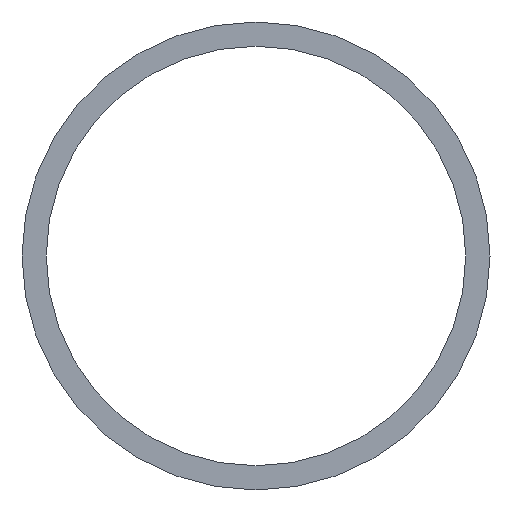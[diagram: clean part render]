
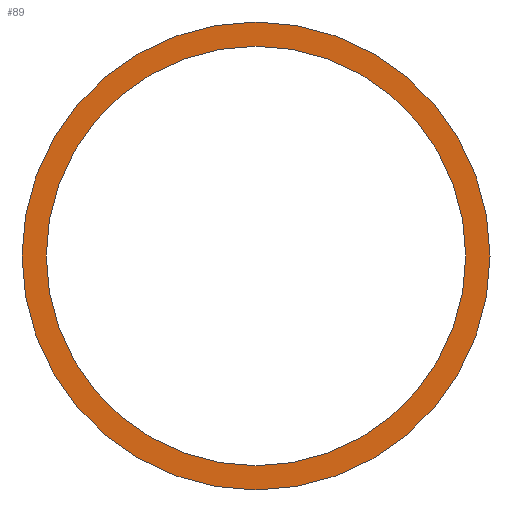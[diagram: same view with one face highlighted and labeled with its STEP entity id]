
A CAD part, front view. The second image highlights one B-rep face of the part: STEP entity #89.
In plain terms, the highlighted planar face has unit normal (0, -1, 0).
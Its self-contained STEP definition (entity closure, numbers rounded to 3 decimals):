
#3 = AXIS2_PLACEMENT_3D ( 'NONE', #88, #38, #135 ) ;
#5 = DIRECTION ( 'NONE',  ( 0., 0., 1. ) ) ;
#6 = DIRECTION ( 'NONE',  ( 0., 1., 0. ) ) ;
#8 = CARTESIAN_POINT ( 'NONE',  ( -92., 82., 6300. ) ) ;
#9 = CARTESIAN_POINT ( 'NONE',  ( -92., 82., 6297.5 ) ) ;
#20 = FACE_BOUND ( 'NONE', #23, .T. ) ;
#23 = EDGE_LOOP ( 'NONE', ( #108, #49 ) ) ;
#26 = DIRECTION ( 'NONE',  ( 0., 1., 0. ) ) ;
#28 = CARTESIAN_POINT ( 'NONE',  ( -92., 82., 6275.85 ) ) ;
#35 = VERTEX_POINT ( 'NONE', #8 ) ;
#38 = DIRECTION ( 'NONE',  ( 0., 1., 0. ) ) ;
#39 = CIRCLE ( 'NONE', #3, 24.15 ) ;
#45 = EDGE_CURVE ( 'NONE', #106, #201, #57, .T. ) ;
#49 = ORIENTED_EDGE ( 'NONE', *, *, #45, .T. ) ;
#57 = CIRCLE ( 'NONE', #99, 21.65 ) ;
#66 = DIRECTION ( 'NONE',  ( 0., 0., 1. ) ) ;
#68 = DIRECTION ( 'NONE',  ( 0., 1., 0. ) ) ;
#74 = ORIENTED_EDGE ( 'NONE', *, *, #188, .F. ) ;
#88 = CARTESIAN_POINT ( 'NONE',  ( -92., 82., 6275.85 ) ) ;
#89 = ADVANCED_FACE ( 'NONE', ( #20, #96 ), #130, .F. ) ;
#96 = FACE_OUTER_BOUND ( 'NONE', #113, .T. ) ;
#99 = AXIS2_PLACEMENT_3D ( 'NONE', #168, #6, #200 ) ;
#106 = VERTEX_POINT ( 'NONE', #211 ) ;
#108 = ORIENTED_EDGE ( 'NONE', *, *, #109, .T. ) ;
#109 = EDGE_CURVE ( 'NONE', #201, #106, #181, .T. ) ;
#110 = CIRCLE ( 'NONE', #214, 24.15 ) ;
#113 = EDGE_LOOP ( 'NONE', ( #74, #132 ) ) ;
#119 = CARTESIAN_POINT ( 'NONE',  ( -92., 82., 6251.7 ) ) ;
#122 = DIRECTION ( 'NONE',  ( 0., 0., 1. ) ) ;
#125 = AXIS2_PLACEMENT_3D ( 'NONE', #28, #68, #122 ) ;
#130 = PLANE ( 'NONE',  #195 ) ;
#132 = ORIENTED_EDGE ( 'NONE', *, *, #169, .F. ) ;
#135 = DIRECTION ( 'NONE',  ( 0., 0., 1. ) ) ;
#147 = DIRECTION ( 'NONE',  ( 0., 1., 0. ) ) ;
#166 = CARTESIAN_POINT ( 'NONE',  ( -82., 82., 6275.85 ) ) ;
#168 = CARTESIAN_POINT ( 'NONE',  ( -92., 82., 6275.85 ) ) ;
#169 = EDGE_CURVE ( 'NONE', #184, #35, #39, .T. ) ;
#172 = CARTESIAN_POINT ( 'NONE',  ( -92., 82., 6275.85 ) ) ;
#181 = CIRCLE ( 'NONE', #125, 21.65 ) ;
#184 = VERTEX_POINT ( 'NONE', #119 ) ;
#188 = EDGE_CURVE ( 'NONE', #35, #184, #110, .T. ) ;
#195 = AXIS2_PLACEMENT_3D ( 'NONE', #166, #147, #5 ) ;
#200 = DIRECTION ( 'NONE',  ( 0., 0., 1. ) ) ;
#201 = VERTEX_POINT ( 'NONE', #9 ) ;
#211 = CARTESIAN_POINT ( 'NONE',  ( -92., 82., 6254.2 ) ) ;
#214 = AXIS2_PLACEMENT_3D ( 'NONE', #172, #26, #66 ) ;
